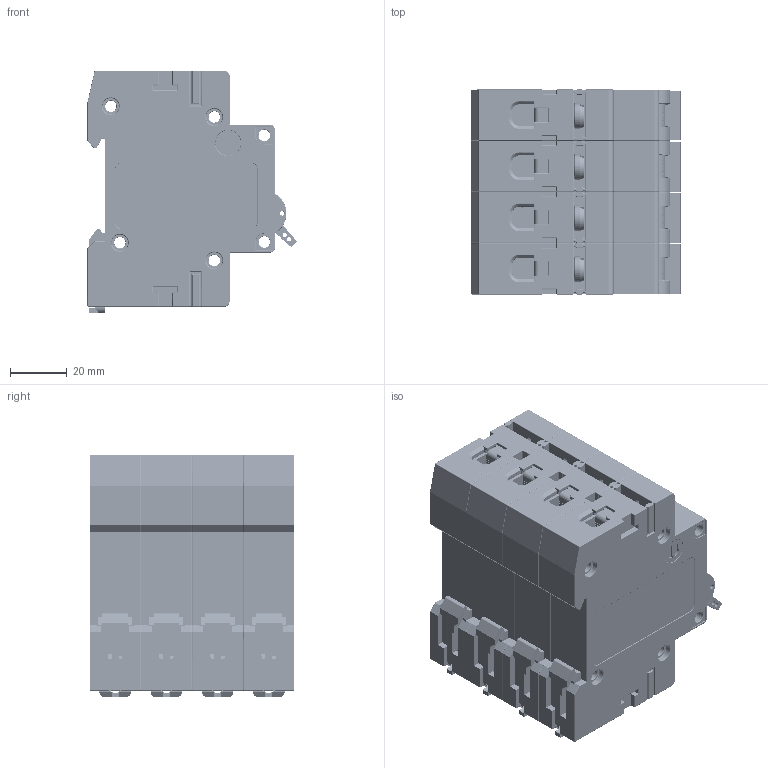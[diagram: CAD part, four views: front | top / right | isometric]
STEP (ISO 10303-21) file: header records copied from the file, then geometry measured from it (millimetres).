
FILE_DESCRIPTION (( 'STEP AP214' ), '1' );
FILE_NAME ('EVOZ4B16.STEP', '2026-06-18T08:09:17', ( '' ), ( '' ), 'SwSTEP 2.0', 'SolidWorks 2025', '' );
FILE_SCHEMA (( 'AUTOMOTIVE_DESIGN' ));
Length unit declared in the file: millimetre
Products named in the file (1): EVOZ4B16
Bounding box: 73.55 x 72 x 85.3 mm (x, y, z)
Volume: 279314.5 mm3; surface area: 132335.9 mm2
Topology: 24 solids, 72 shells, 8129 faces, 21699 edges, 13765 vertices
Faces by surface type: plane 4473, cylinder 2536, torus 676, sphere 176, bspline 144, cone 124
Entity records: 299198 total; most frequent: CARTESIAN_POINT 93992, ORIENTED_EDGE 43014, DIRECTION 40290, EDGE_CURVE 21507, LINE 13910, VECTOR 13910, VERTEX_POINT 13765, AXIS2_PLACEMENT_3D 13190
